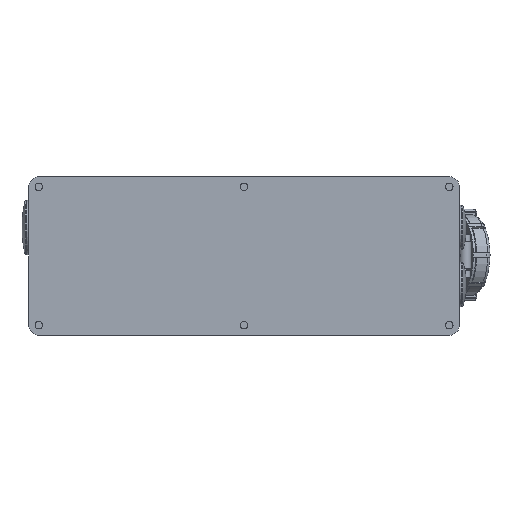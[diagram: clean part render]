
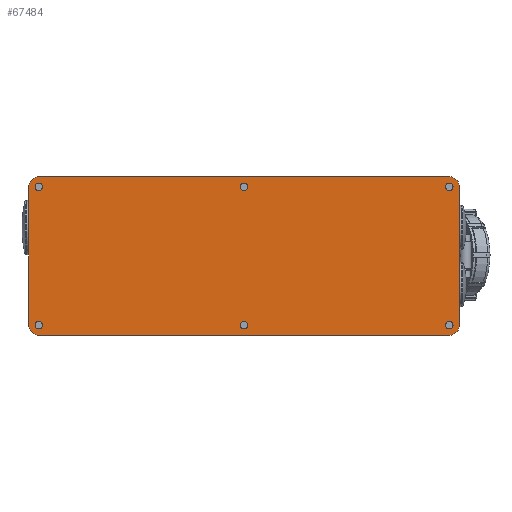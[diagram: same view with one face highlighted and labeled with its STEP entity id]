
A CAD part, front view. The second image highlights one B-rep face of the part: STEP entity #67484.
In plain terms, the highlighted planar face has unit normal (0, -1, 0).
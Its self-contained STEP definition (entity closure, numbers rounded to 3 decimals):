
#18833=CARTESIAN_POINT('',(173.5,0.,58.5));
#18834=DIRECTION('',(0.,1.,0.));
#18835=DIRECTION('',(0.,0.,1.));
#18836=AXIS2_PLACEMENT_3D('',#18833,#18834,#18835);
#18841=DIRECTION('',(0.,0.,-1.));
#18842=VECTOR('',#18841,117.);
#18843=CARTESIAN_POINT('',(182.,0.,58.5));
#18844=LINE('1683',#18843,#18842);
#18848=CARTESIAN_POINT('',(173.5,0.,-58.5));
#18849=DIRECTION('',(0.,1.,0.));
#18850=DIRECTION('',(1.,0.,0.));
#18851=AXIS2_PLACEMENT_3D('',#18848,#18849,#18850);
#18856=DIRECTION('',(-1.,0.,0.));
#18857=VECTOR('',#18856,347.);
#18858=CARTESIAN_POINT('',(173.5,0.,-67.));
#18859=LINE('1685',#18858,#18857);
#18863=CARTESIAN_POINT('',(-173.5,0.,-58.5));
#18864=DIRECTION('',(0.,1.,0.));
#18865=DIRECTION('',(0.,0.,-1.));
#18866=AXIS2_PLACEMENT_3D('',#18863,#18864,#18865);
#18871=DIRECTION('',(0.,0.,1.));
#18872=VECTOR('',#18871,117.);
#18873=CARTESIAN_POINT('',(-182.,0.,-58.5));
#18874=LINE('1687',#18873,#18872);
#18878=CARTESIAN_POINT('',(-173.5,0.,58.5));
#18879=DIRECTION('',(0.,1.,0.));
#18880=DIRECTION('',(-1.,0.,0.));
#18881=AXIS2_PLACEMENT_3D('',#18878,#18879,#18880);
#18886=DIRECTION('',(1.,0.,0.));
#18887=VECTOR('',#18886,347.);
#18888=CARTESIAN_POINT('',(-173.5,0.,67.));
#18889=LINE('1689',#18888,#18887);
#18893=CARTESIAN_POINT('',(0.,0.,58.5));
#18894=DIRECTION('',(0.,1.,0.));
#18895=DIRECTION('',(0.,0.,-1.));
#18896=AXIS2_PLACEMENT_3D('',#18893,#18894,#18895);
#18901=CARTESIAN_POINT('',(0.,0.,58.5));
#18902=DIRECTION('',(0.,1.,0.));
#18903=DIRECTION('',(0.,0.,1.));
#18904=AXIS2_PLACEMENT_3D('',#18901,#18902,#18903);
#18909=CARTESIAN_POINT('',(173.5,0.,58.5));
#18910=DIRECTION('',(0.,1.,0.));
#18911=DIRECTION('',(0.,0.,-1.));
#18912=AXIS2_PLACEMENT_3D('',#18909,#18910,#18911);
#18917=CARTESIAN_POINT('',(173.5,0.,58.5));
#18918=DIRECTION('',(0.,1.,0.));
#18919=DIRECTION('',(0.,0.,1.));
#18920=AXIS2_PLACEMENT_3D('',#18917,#18918,#18919);
#18925=CARTESIAN_POINT('',(-173.5,0.,58.5));
#18926=DIRECTION('',(0.,1.,0.));
#18927=DIRECTION('',(0.,0.,-1.));
#18928=AXIS2_PLACEMENT_3D('',#18925,#18926,#18927);
#18933=CARTESIAN_POINT('',(-173.5,0.,58.5));
#18934=DIRECTION('',(0.,1.,0.));
#18935=DIRECTION('',(0.,0.,1.));
#18936=AXIS2_PLACEMENT_3D('',#18933,#18934,#18935);
#18941=CARTESIAN_POINT('',(0.,0.,-58.5));
#18942=DIRECTION('',(0.,-1.,0.));
#18943=DIRECTION('',(0.,0.,1.));
#18944=AXIS2_PLACEMENT_3D('',#18941,#18942,#18943);
#18949=CARTESIAN_POINT('',(0.,0.,-58.5));
#18950=DIRECTION('',(0.,-1.,0.));
#18951=DIRECTION('',(0.,0.,-1.));
#18952=AXIS2_PLACEMENT_3D('',#18949,#18950,#18951);
#18957=CARTESIAN_POINT('',(173.5,0.,-58.5));
#18958=DIRECTION('',(0.,-1.,0.));
#18959=DIRECTION('',(0.,0.,1.));
#18960=AXIS2_PLACEMENT_3D('',#18957,#18958,#18959);
#18965=CARTESIAN_POINT('',(173.5,0.,-58.5));
#18966=DIRECTION('',(0.,-1.,0.));
#18967=DIRECTION('',(0.,0.,-1.));
#18968=AXIS2_PLACEMENT_3D('',#18965,#18966,#18967);
#18973=CARTESIAN_POINT('',(-173.5,0.,-58.5));
#18974=DIRECTION('',(0.,-1.,0.));
#18975=DIRECTION('',(0.,0.,1.));
#18976=AXIS2_PLACEMENT_3D('',#18973,#18974,#18975);
#18981=CARTESIAN_POINT('',(-173.5,0.,-58.5));
#18982=DIRECTION('',(0.,-1.,0.));
#18983=DIRECTION('',(0.,0.,-1.));
#18984=AXIS2_PLACEMENT_3D('',#18981,#18982,#18983);
#41459=CARTESIAN_POINT('',(173.5,0.,67.));
#41460=CARTESIAN_POINT('',(182.,0.,58.5));
#41461=VERTEX_POINT('',#41459);
#41462=VERTEX_POINT('',#41460);
#41463=CARTESIAN_POINT('',(182.,0.,-58.5));
#41464=VERTEX_POINT('',#41463);
#41465=CARTESIAN_POINT('',(173.5,0.,-67.));
#41466=VERTEX_POINT('',#41465);
#41467=CARTESIAN_POINT('',(-173.5,0.,-67.));
#41468=VERTEX_POINT('',#41467);
#41469=CARTESIAN_POINT('',(-182.,0.,-58.5));
#41470=VERTEX_POINT('',#41469);
#41471=CARTESIAN_POINT('',(-182.,0.,58.5));
#41472=VERTEX_POINT('',#41471);
#41473=CARTESIAN_POINT('',(-173.5,0.,67.));
#41474=VERTEX_POINT('',#41473);
#41475=CARTESIAN_POINT('',(0.,0.,55.35));
#41476=CARTESIAN_POINT('',(0.,0.,61.65));
#41477=VERTEX_POINT('',#41475);
#41478=VERTEX_POINT('',#41476);
#41479=CARTESIAN_POINT('',(173.5,0.,55.35));
#41480=CARTESIAN_POINT('',(173.5,0.,61.65));
#41481=VERTEX_POINT('',#41479);
#41482=VERTEX_POINT('',#41480);
#41483=CARTESIAN_POINT('',(-173.5,0.,55.35));
#41484=CARTESIAN_POINT('',(-173.5,0.,61.65));
#41485=VERTEX_POINT('',#41483);
#41486=VERTEX_POINT('',#41484);
#41487=CARTESIAN_POINT('',(0.,0.,-55.35));
#41488=CARTESIAN_POINT('',(0.,0.,-61.65));
#41489=VERTEX_POINT('',#41487);
#41490=VERTEX_POINT('',#41488);
#41491=CARTESIAN_POINT('',(173.5,0.,-55.35));
#41492=CARTESIAN_POINT('',(173.5,0.,-61.65));
#41493=VERTEX_POINT('',#41491);
#41494=VERTEX_POINT('',#41492);
#41495=CARTESIAN_POINT('',(-173.5,0.,-55.35));
#41496=CARTESIAN_POINT('',(-173.5,0.,-61.65));
#41497=VERTEX_POINT('',#41495);
#41498=VERTEX_POINT('',#41496);
#67433=CARTESIAN_POINT('',(0.,0.,0.));
#67434=DIRECTION('',(0.,1.,0.));
#67435=DIRECTION('',(-1.,0.,0.));
#67436=AXIS2_PLACEMENT_3D('',#67433,#67434,#67435);
#67437=PLANE('29',#67436);
#67438=ORIENTED_EDGE('1682',*,*,#67416,.T.);
#67439=ORIENTED_EDGE('1683',*,*,#67379,.T.);
#67440=ORIENTED_EDGE('1684',*,*,#67322,.T.);
#67441=ORIENTED_EDGE('1685',*,*,#67295,.T.);
#67442=ORIENTED_EDGE('1686',*,*,#67256,.T.);
#67443=ORIENTED_EDGE('1687',*,*,#67218,.T.);
#67444=ORIENTED_EDGE('1688',*,*,#67185,.T.);
#67445=ORIENTED_EDGE('1689',*,*,#67159,.T.);
#67446=EDGE_LOOP('29',(#67438,#67439,#67440,#67441,#67442,#67443,#67444,
#67445));
#67447=FACE_OUTER_BOUND('29',#67446,.F.);
#67449=ORIENTED_EDGE('1690',*,*,#67448,.F.);
#67451=ORIENTED_EDGE('1691',*,*,#67450,.F.);
#67452=EDGE_LOOP('29',(#67449,#67451));
#67453=FACE_BOUND('29',#67452,.F.);
#67455=ORIENTED_EDGE('1692',*,*,#67454,.F.);
#67457=ORIENTED_EDGE('1693',*,*,#67456,.F.);
#67458=EDGE_LOOP('29',(#67455,#67457));
#67459=FACE_BOUND('29',#67458,.F.);
#67461=ORIENTED_EDGE('1694',*,*,#67460,.F.);
#67463=ORIENTED_EDGE('1695',*,*,#67462,.F.);
#67464=EDGE_LOOP('29',(#67461,#67463));
#67465=FACE_BOUND('29',#67464,.F.);
#67467=ORIENTED_EDGE('1696',*,*,#67466,.T.);
#67469=ORIENTED_EDGE('1697',*,*,#67468,.T.);
#67470=EDGE_LOOP('29',(#67467,#67469));
#67471=FACE_BOUND('29',#67470,.F.);
#67473=ORIENTED_EDGE('1698',*,*,#67472,.T.);
#67475=ORIENTED_EDGE('1699',*,*,#67474,.T.);
#67476=EDGE_LOOP('29',(#67473,#67475));
#67477=FACE_BOUND('29',#67476,.F.);
#67479=ORIENTED_EDGE('1700',*,*,#67478,.T.);
#67481=ORIENTED_EDGE('1701',*,*,#67480,.T.);
#67482=EDGE_LOOP('29',(#67479,#67481));
#67483=FACE_BOUND('29',#67482,.F.);
#18837=CIRCLE('1682',#18836,8.5);
#18852=CIRCLE('1684',#18851,8.5);
#18867=CIRCLE('1686',#18866,8.5);
#18882=CIRCLE('1688',#18881,8.5);
#18897=CIRCLE('1690',#18896,3.15);
#18905=CIRCLE('1691',#18904,3.15);
#18913=CIRCLE('1692',#18912,3.15);
#18921=CIRCLE('1693',#18920,3.15);
#18929=CIRCLE('1694',#18928,3.15);
#18937=CIRCLE('1695',#18936,3.15);
#18945=CIRCLE('1696',#18944,3.15);
#18953=CIRCLE('1697',#18952,3.15);
#18961=CIRCLE('1698',#18960,3.15);
#18969=CIRCLE('1699',#18968,3.15);
#18977=CIRCLE('1700',#18976,3.15);
#18985=CIRCLE('1701',#18984,3.15);
#67159=EDGE_CURVE('1689',#41474,#41461,#18889,.T.);
#67185=EDGE_CURVE('1688',#41472,#41474,#18882,.T.);
#67218=EDGE_CURVE('1687',#41470,#41472,#18874,.T.);
#67256=EDGE_CURVE('1686',#41468,#41470,#18867,.T.);
#67295=EDGE_CURVE('1685',#41466,#41468,#18859,.T.);
#67322=EDGE_CURVE('1684',#41464,#41466,#18852,.T.);
#67379=EDGE_CURVE('1683',#41462,#41464,#18844,.T.);
#67416=EDGE_CURVE('1682',#41461,#41462,#18837,.T.);
#67448=EDGE_CURVE('1690',#41477,#41478,#18897,.T.);
#67450=EDGE_CURVE('1691',#41478,#41477,#18905,.T.);
#67454=EDGE_CURVE('1692',#41481,#41482,#18913,.T.);
#67456=EDGE_CURVE('1693',#41482,#41481,#18921,.T.);
#67460=EDGE_CURVE('1694',#41485,#41486,#18929,.T.);
#67462=EDGE_CURVE('1695',#41486,#41485,#18937,.T.);
#67466=EDGE_CURVE('1696',#41489,#41490,#18945,.T.);
#67468=EDGE_CURVE('1697',#41490,#41489,#18953,.T.);
#67472=EDGE_CURVE('1698',#41493,#41494,#18961,.T.);
#67474=EDGE_CURVE('1699',#41494,#41493,#18969,.T.);
#67478=EDGE_CURVE('1700',#41497,#41498,#18977,.T.);
#67480=EDGE_CURVE('1701',#41498,#41497,#18985,.T.);
#67484=ADVANCED_FACE('29',(#67447,#67453,#67459,#67465,#67471,#67477,#67483),
#67437,.F.);
